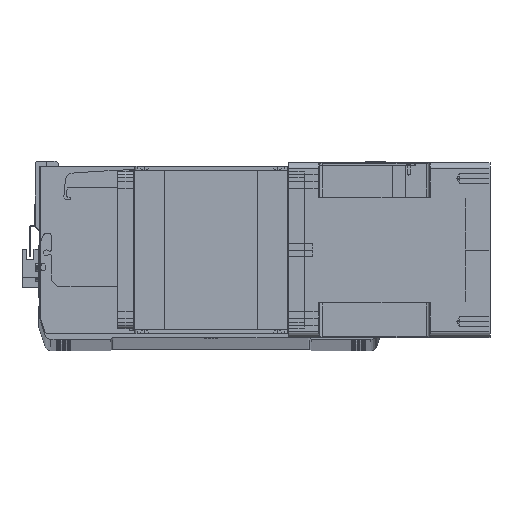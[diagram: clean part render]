
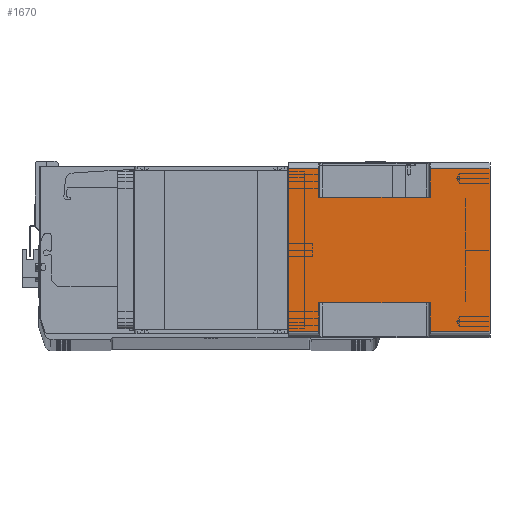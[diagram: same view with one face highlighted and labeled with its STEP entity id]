
A CAD part, top view. The second image highlights one B-rep face of the part: STEP entity #1670.
In plain terms, the highlighted planar face has unit normal (0, 0, 1) as drawn and (1, 0, 0) by its records, which use the part's own axes.
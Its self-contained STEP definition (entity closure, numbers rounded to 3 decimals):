
#202 = VERTEX_POINT ( 'NONE', #7604 ) ;
#490 = CARTESIAN_POINT ( 'NONE',  ( 71., 66., -164. ) ) ;
#686 = CARTESIAN_POINT ( 'NONE',  ( 71., -66., -164. ) ) ;
#1168 = DIRECTION ( 'NONE',  ( 0., 1., 0. ) ) ;
#1623 = ORIENTED_EDGE ( 'NONE', *, *, #6897, .F. ) ;
#1637 = LINE ( 'NONE', #37224, #20209 ) ;
#1657 = CARTESIAN_POINT ( 'NONE',  ( 71., 43., -115.5 ) ) ;
#1670 = ADVANCED_FACE ( 'NONE', ( #6266 ), #12990, .T. ) ;
#1776 = LINE ( 'NONE', #38505, #34073 ) ;
#1884 = CARTESIAN_POINT ( 'NONE',  ( 71., -43., -164. ) ) ;
#2271 = CARTESIAN_POINT ( 'NONE',  ( 71., -66., -164. ) ) ;
#3303 = EDGE_CURVE ( 'NONE', #36622, #37722, #19141, .T. ) ;
#3525 = LINE ( 'NONE', #2271, #36780 ) ;
#3961 = DIRECTION ( 'NONE',  ( 1., 0., 0. ) ) ;
#6005 = CARTESIAN_POINT ( 'NONE',  ( 71., -43., -115.5 ) ) ;
#6266 = FACE_OUTER_BOUND ( 'NONE', #39631, .T. ) ;
#6408 = VERTEX_POINT ( 'NONE', #9883 ) ;
#6897 = EDGE_CURVE ( 'NONE', #25535, #37722, #12956, .T. ) ;
#7318 = CARTESIAN_POINT ( 'NONE',  ( 71., -66., 0. ) ) ;
#7604 = CARTESIAN_POINT ( 'NONE',  ( 71., 66., 0. ) ) ;
#7885 = VECTOR ( 'NONE', #21381, 1000. ) ;
#8037 = ORIENTED_EDGE ( 'NONE', *, *, #29249, .F. ) ;
#8734 = CARTESIAN_POINT ( 'NONE',  ( 71., -66., -24.5 ) ) ;
#9020 = VECTOR ( 'NONE', #32042, 1000. ) ;
#9415 = VERTEX_POINT ( 'NONE', #25054 ) ;
#9596 = VECTOR ( 'NONE', #33618, 1000. ) ;
#9883 = CARTESIAN_POINT ( 'NONE',  ( 71., 43., -24.5 ) ) ;
#10201 = CARTESIAN_POINT ( 'NONE',  ( 71., 66., -164. ) ) ;
#10446 = VECTOR ( 'NONE', #16595, 1000. ) ;
#11123 = DIRECTION ( 'NONE',  ( 0., 0., 1. ) ) ;
#11798 = AXIS2_PLACEMENT_3D ( 'NONE', #686, #3961, #38585 ) ;
#11923 = VECTOR ( 'NONE', #11123, 1000. ) ;
#12688 = ORIENTED_EDGE ( 'NONE', *, *, #3303, .T. ) ;
#12956 = LINE ( 'NONE', #1884, #24672 ) ;
#12990 = PLANE ( 'NONE',  #11798 ) ;
#13071 = VERTEX_POINT ( 'NONE', #33725 ) ;
#13476 = VERTEX_POINT ( 'NONE', #20523 ) ;
#13705 = DIRECTION ( 'NONE',  ( 0., 1., 0. ) ) ;
#13847 = CARTESIAN_POINT ( 'NONE',  ( 71., -66., -115.5 ) ) ;
#13854 = LINE ( 'NONE', #10201, #37842 ) ;
#14461 = ORIENTED_EDGE ( 'NONE', *, *, #30216, .T. ) ;
#14854 = CARTESIAN_POINT ( 'NONE',  ( 71., 43., -164. ) ) ;
#16087 = ORIENTED_EDGE ( 'NONE', *, *, #26415, .F. ) ;
#16237 = DIRECTION ( 'NONE',  ( 0., 0., 1. ) ) ;
#16250 = VECTOR ( 'NONE', #26817, 1000. ) ;
#16595 = DIRECTION ( 'NONE',  ( 0., -1., 0. ) ) ;
#16816 = VERTEX_POINT ( 'NONE', #7318 ) ;
#17312 = CARTESIAN_POINT ( 'NONE',  ( 71., -66., -164. ) ) ;
#17742 = VERTEX_POINT ( 'NONE', #22037 ) ;
#18116 = CARTESIAN_POINT ( 'NONE',  ( 71., -43., -24.5 ) ) ;
#18468 = ORIENTED_EDGE ( 'NONE', *, *, #24240, .F. ) ;
#19141 = LINE ( 'NONE', #18116, #7885 ) ;
#19725 = VERTEX_POINT ( 'NONE', #33053 ) ;
#19871 = LINE ( 'NONE', #14854, #9596 ) ;
#20209 = VECTOR ( 'NONE', #33701, 1000. ) ;
#20523 = CARTESIAN_POINT ( 'NONE',  ( 71., -66., -115.5 ) ) ;
#21304 = CARTESIAN_POINT ( 'NONE',  ( 71., -43., -24.5 ) ) ;
#21381 = DIRECTION ( 'NONE',  ( 0., 1., 0. ) ) ;
#21783 = VERTEX_POINT ( 'NONE', #29338 ) ;
#22037 = CARTESIAN_POINT ( 'NONE',  ( 71., 66., -164. ) ) ;
#22285 = ORIENTED_EDGE ( 'NONE', *, *, #30025, .T. ) ;
#22483 = CARTESIAN_POINT ( 'NONE',  ( 71., -66., -164. ) ) ;
#22832 = VECTOR ( 'NONE', #1168, 1000. ) ;
#23092 = ORIENTED_EDGE ( 'NONE', *, *, #36928, .T. ) ;
#24240 = EDGE_CURVE ( 'NONE', #16816, #202, #1637, .T. ) ;
#24560 = EDGE_CURVE ( 'NONE', #21783, #9415, #33404, .T. ) ;
#24672 = VECTOR ( 'NONE', #27995, 1000. ) ;
#24828 = ORIENTED_EDGE ( 'NONE', *, *, #27765, .F. ) ;
#25054 = CARTESIAN_POINT ( 'NONE',  ( 71., 43., -115.5 ) ) ;
#25535 = VERTEX_POINT ( 'NONE', #6005 ) ;
#26415 = EDGE_CURVE ( 'NONE', #36622, #16816, #29100, .T. ) ;
#26817 = DIRECTION ( 'NONE',  ( 0., -1., 0. ) ) ;
#27170 = LINE ( 'NONE', #13847, #10446 ) ;
#27765 = EDGE_CURVE ( 'NONE', #19725, #13476, #3525, .T. ) ;
#27995 = DIRECTION ( 'NONE',  ( 0., 0., 1. ) ) ;
#29100 = LINE ( 'NONE', #17312, #11923 ) ;
#29249 = EDGE_CURVE ( 'NONE', #6408, #9415, #19871, .T. ) ;
#29338 = CARTESIAN_POINT ( 'NONE',  ( 71., 66., -115.5 ) ) ;
#30025 = EDGE_CURVE ( 'NONE', #17742, #21783, #39924, .T. ) ;
#30216 = EDGE_CURVE ( 'NONE', #25535, #13476, #27170, .T. ) ;
#30556 = DIRECTION ( 'NONE',  ( 0., 0., 1. ) ) ;
#31099 = ORIENTED_EDGE ( 'NONE', *, *, #34565, .T. ) ;
#32042 = DIRECTION ( 'NONE',  ( 0., 0., 1. ) ) ;
#33053 = CARTESIAN_POINT ( 'NONE',  ( 71., -66., -164. ) ) ;
#33404 = LINE ( 'NONE', #1657, #16250 ) ;
#33618 = DIRECTION ( 'NONE',  ( 0., 0., -1. ) ) ;
#33701 = DIRECTION ( 'NONE',  ( 0., 1., 0. ) ) ;
#33725 = CARTESIAN_POINT ( 'NONE',  ( 71., 66., -24.5 ) ) ;
#34027 = EDGE_CURVE ( 'NONE', #19725, #17742, #35564, .T. ) ;
#34073 = VECTOR ( 'NONE', #13705, 1000. ) ;
#34565 = EDGE_CURVE ( 'NONE', #6408, #13071, #1776, .T. ) ;
#35564 = LINE ( 'NONE', #22483, #22832 ) ;
#36622 = VERTEX_POINT ( 'NONE', #8734 ) ;
#36780 = VECTOR ( 'NONE', #30556, 1000. ) ;
#36928 = EDGE_CURVE ( 'NONE', #13071, #202, #13854, .T. ) ;
#37108 = ORIENTED_EDGE ( 'NONE', *, *, #34027, .T. ) ;
#37224 = CARTESIAN_POINT ( 'NONE',  ( 71., -66., 0. ) ) ;
#37722 = VERTEX_POINT ( 'NONE', #21304 ) ;
#37842 = VECTOR ( 'NONE', #16237, 1000. ) ;
#38505 = CARTESIAN_POINT ( 'NONE',  ( 71., -66., -24.5 ) ) ;
#38585 = DIRECTION ( 'NONE',  ( 0., 1., 0. ) ) ;
#38973 = ORIENTED_EDGE ( 'NONE', *, *, #24560, .T. ) ;
#39631 = EDGE_LOOP ( 'NONE', ( #1623, #14461, #24828, #37108, #22285, #38973, #8037, #31099, #23092, #18468, #16087, #12688 ) ) ;
#39924 = LINE ( 'NONE', #490, #9020 ) ;
